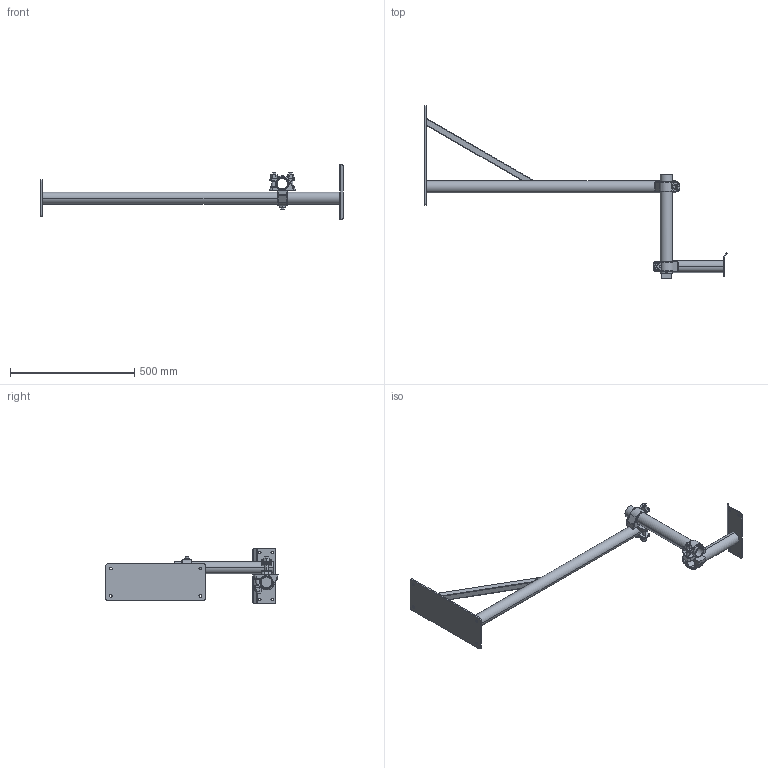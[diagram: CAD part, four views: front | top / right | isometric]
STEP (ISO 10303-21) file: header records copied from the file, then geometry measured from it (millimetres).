
FILE_DESCRIPTION((''),'2;1');
FILE_NAME('114080','2022-05-20T11:29:39',('Tomas Bellgran'),(''),'CREO PARAMETRIC BY PTC INC, 2018260','CREO PARAMETRIC BY PTC INC, 2018260','');
FILE_SCHEMA(('AUTOMOTIVE_DESIGN { 1 0 10303 214 1 1 1 1 }'));
Length unit declared in the file: millimetre
Products named in the file (11): 130-212; 130-214; 130-216; 130-210; APS_LAYHERKOPPLING-546; 136900; 130-218; 130-252; 130-254; 130-250; 114080
Assembly tree (12 placements, depth 3):
  114080
    130-210
      130-212
      130-214
      130-216
    136900  x2
      APS_LAYHERKOPPLING-546
    130-218
    130-250
      130-252
      130-254
Bounding box: 1213.93 x 692.75 x 220 mm (x, y, z)
Volume: 1660805.2 mm3; surface area: 820907.6 mm2
Topology: 10 solids, 10 shells, 338 faces, 874 edges, 540 vertices
Faces by surface type: cylinder 156, plane 110, torus 40, bspline 16, sphere 16
Entity records: 8346 total; most frequent: CARTESIAN_POINT 1339, DIRECTION 937, ORIENTED_EDGE 714, PROPERTY_DEFINITION 502, REPRESENTATION 495, PROPERTY_DEFINITION_REPRESENTATION 495, DESCRIPTIVE_REPRESENTATION_ITEM 404, GENERAL_PROPERTY 392
